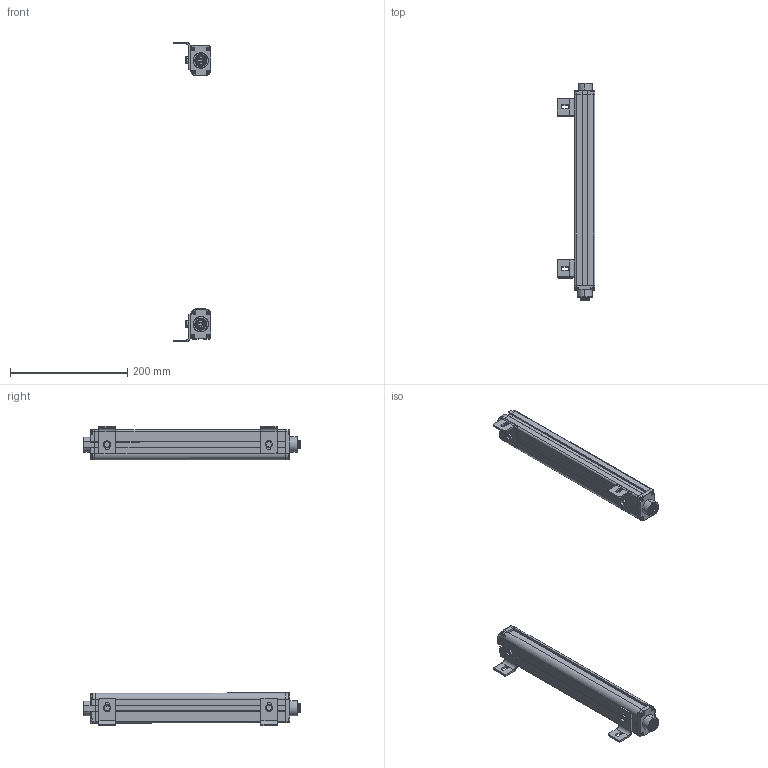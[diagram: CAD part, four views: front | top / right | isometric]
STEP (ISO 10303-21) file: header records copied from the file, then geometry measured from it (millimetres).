
FILE_DESCRIPTION (( 'STEP AP214' ), '1' );
FILE_NAME ('esn0840.STEP', '2018-03-09T10:30:02', ( '' ), ( '' ), 'SwSTEP 2.0', 'SolidWorks 2017', '' );
FILE_SCHEMA (( 'AUTOMOTIVE_DESIGN' ));
Length unit declared in the file: millimetre
Products named in the file (12): lgp0840; esndg1z0840; esn0840; m6-ls0840; lx0840; esndg20840; hkct10840; zj0840; pcb0840; esndg10840; esn20840; hk0840
Assembly tree (40 placements, depth 2):
  esn0840
    esn20840  x2
    esndg10840
    pcb0840  x2
    esndg20840  x2
    lgp0840  x2
    hkct10840  x2
    lx0840  x16
    hk0840  x4
    zj0840  x4
    m6-ls0840  x4
    esndg1z0840
Bounding box: 64.8 x 370.32 x 511.77 mm (x, y, z)
Volume: 504706.3 mm3; surface area: 384568.1 mm2
Topology: 40 solids, 40 shells, 2135 faces, 5651 edges, 3638 vertices
Faces by surface type: cylinder 1025, plane 706, bspline 404
Entity records: 184074 total; most frequent: CARTESIAN_POINT 166338, ORIENTED_EDGE 3838, DIRECTION 3268, EDGE_CURVE 1919, VERTEX_POINT 1228, AXIS2_PLACEMENT_3D 1165, LINE 938, VECTOR 938
